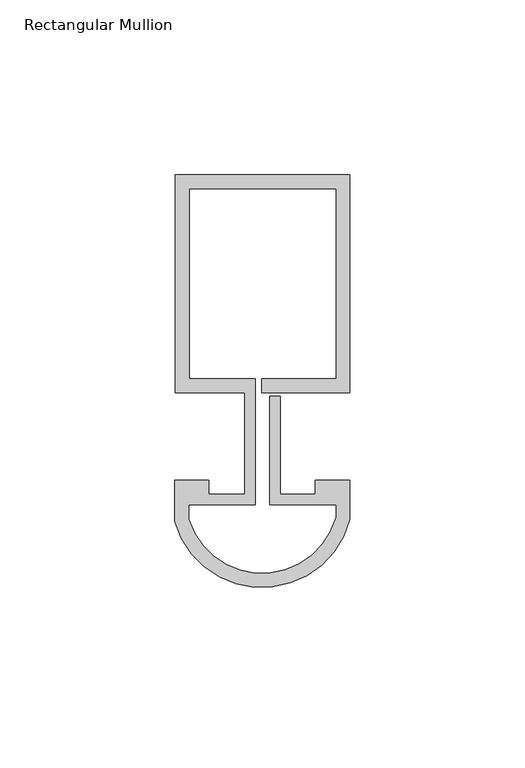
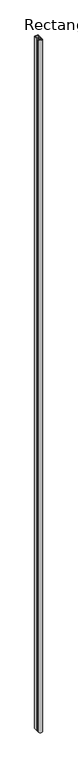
"""IFC4 building model written with IfcOpenShell, lengths in millimetres: member geometry, Rectangular Mullion : Reynaers_CW-50_Mullion-Transom_Vertical_62.5mm_Facecap-07."""

import ifcopenshell
import ifcopenshell.guid

model = None  # the IFC model being written
_history = None  # IfcOwnerHistory: only IFC2X3 demands one
_inside = {}  # id of a spatial element -> (the spatial element, [elements in it])
_under = {}  # id of a project, library or spatial element -> (it, [spatial elements below it])
_declared = {}  # id of a project -> (the project, [libraries it declares])
_typed = {}  # id of a type object -> (the type object, [elements of that type])
_made_of = {}  # id of a material, layer set ... -> (it, [elements and type objects made of it])


def new_model(schema):
    """Start an empty IFC model of exactly this schema.

    Asked for "IFC4X3", IfcOpenShell would pick the latest addendum, in which some entities
    have other attributes; the version numbers below select the first issue.
    IFC2X3 requires an IfcOwnerHistory on every rooted entity: one is made here for all.
    """
    global model, _history
    if schema == "IFC4X3":
        model = ifcopenshell.file(schema_version=(4, 3, 0, 0))
    else:
        model = ifcopenshell.file(schema=schema)
    _inside.clear()
    _under.clear()
    _declared.clear()
    _typed.clear()
    _made_of.clear()
    _history = None
    if model.schema == "IFC2X3":
        org = make("IfcOrganization", Name="unknown")
        user = make(
            "IfcPersonAndOrganization",
            ThePerson=make("IfcPerson", FamilyName="unknown"),
            TheOrganization=org,
        )
        app = make(
            "IfcApplication",
            ApplicationDeveloper=org,
            Version="unknown",
            ApplicationFullName="unknown",
            ApplicationIdentifier="unknown",
        )
        _history = make(
            "IfcOwnerHistory",
            OwningUser=user,
            OwningApplication=app,
            ChangeAction="ADDED",
            CreationDate=0,
        )
    return model


def make(cls, **values):
    """One entity of the class cls with the attributes given. An attribute that is None is left unset."""
    return model.create_entity(
        cls, **{name: value for name, value in values.items() if value is not None}
    )


def rooted(cls, **values):
    """An entity with a GlobalId (a new one), such as an element, a storey or a relation."""
    return make(cls, GlobalId=ifcopenshell.guid.new(), OwnerHistory=_history, **values)


def si_unit(unit_type, name, prefix=None):
    """IfcSIUnit, for example si_unit("LENGTHUNIT", "METRE", prefix="MILLI")."""
    return make("IfcSIUnit", UnitType=unit_type, Prefix=prefix, Name=name)


def assignment(units):
    """IfcUnitAssignment: the units of a project."""
    return None if units is None else make("IfcUnitAssignment", Units=units)


def point(xyz):
    """IfcCartesianPoint."""
    return None if xyz is None else make("IfcCartesianPoint", Coordinates=xyz)


def direction(xyz):
    """IfcDirection."""
    return None if xyz is None else make("IfcDirection", DirectionRatios=xyz)


def frame(location, z_axis=None, x_axis=None):
    """IfcAxis2Placement3D, a coordinate frame: its origin and axes. An axis left out is left unset."""
    return make(
        "IfcAxis2Placement3D",
        Location=point(location),
        Axis=direction(z_axis),
        RefDirection=direction(x_axis),
    )


def frame_2d(location, x_axis=None):
    """IfcAxis2Placement2D, a coordinate frame in the plane: its origin and x axis."""
    return make(
        "IfcAxis2Placement2D", Location=point(location), RefDirection=direction(x_axis)
    )


def origin():
    """The frame at (0, 0, 0) with its axes left unset."""
    return frame((0.0, 0.0, 0.0))


def place(relative_to, where):
    """IfcLocalPlacement: puts the frame where relative to a parent placement (None: the world)."""
    return make(
        "IfcLocalPlacement", PlacementRelTo=relative_to, RelativePlacement=where
    )


def context(
    kind, dimensions, precision=None, world=None, true_north=None, identifier=None
):
    """IfcGeometricRepresentationContext, for example the 3D "Model" context."""
    return make(
        "IfcGeometricRepresentationContext",
        ContextIdentifier=identifier,
        ContextType=kind,
        CoordinateSpaceDimension=dimensions,
        Precision=precision,
        WorldCoordinateSystem=world,
        TrueNorth=true_north,
    )


def project(units=None, contexts=None):
    """IfcProject with its units and contexts."""
    return rooted(
        "IfcProject",
        Name="project",
        RepresentationContexts=contexts,
        UnitsInContext=assignment(units),
    )


def spatial(cls, under=None, at=None, **own):
    """A site, building, storey or space (cls), placed at a placement, below another one or the project."""
    s = rooted(cls, ObjectPlacement=at, **own)
    if under is not None:
        _under.setdefault(under.id(), (under, []))[1].append(s)
    return s


def polyline(points):
    """IfcPolyline through the points."""
    return make("IfcPolyline", Points=[point(p) for p in points])


def circle_curve(where, radius):
    """IfcCircle in the frame where."""
    return make("IfcCircle", Position=where, Radius=radius)


def trimmed(basis, trim1, trim2, sense, master):
    """IfcTrimmedCurve: the piece of a basis curve between two trims."""
    return make(
        "IfcTrimmedCurve",
        BasisCurve=basis,
        Trim1=trim1,
        Trim2=trim2,
        SenseAgreement=sense,
        MasterRepresentation=master,
    )


def segment(curve, same_sense, transition):
    """IfcCompositeCurveSegment."""
    return make(
        "IfcCompositeCurveSegment",
        Transition=transition,
        SameSense=same_sense,
        ParentCurve=curve,
    )


def composite_curve(segments, self_intersect=None):
    """IfcCompositeCurve: segments joined end to end."""
    return make("IfcCompositeCurve", Segments=segments, SelfIntersect=self_intersect)


def outline(outer, holes=None, kind="AREA"):
    """IfcArbitraryClosedProfileDef: a profile drawn as a closed curve; with holes, ...WithVoids."""
    if holes is None:
        return make("IfcArbitraryClosedProfileDef", ProfileType=kind, OuterCurve=outer)
    return make(
        "IfcArbitraryProfileDefWithVoids",
        ProfileType=kind,
        OuterCurve=outer,
        InnerCurves=holes,
    )


def extrude(swept, where, along, depth):
    """IfcExtrudedAreaSolid: the profile swept, set in the frame where, extruded along a direction by depth."""
    return make(
        "IfcExtrudedAreaSolid",
        SweptArea=swept,
        Position=where,
        ExtrudedDirection=direction(along),
        Depth=depth,
    )


def shape(context_of_items, identifier, shape_type, items):
    """IfcShapeRepresentation: the items that make up one representation, for example the "Body"."""
    return make(
        "IfcShapeRepresentation",
        ContextOfItems=context_of_items,
        RepresentationIdentifier=identifier,
        RepresentationType=shape_type,
        Items=items,
    )


def source(mapping_origin, context_of_items, identifier, shape_type, items):
    """IfcRepresentationMap: a shape defined once, which mapped items show again and again."""
    return make(
        "IfcRepresentationMap",
        MappingOrigin=mapping_origin,
        MappedRepresentation=shape(context_of_items, identifier, shape_type, items),
    )


def transform(
    local_origin,
    x_axis=None,
    y_axis=None,
    z_axis=None,
    scale=None,
    scale2=None,
    scale3=None,
    uniform=True,
):
    """IfcCartesianTransformationOperator3D, or its non-uniform kind. x_axis, y_axis, z_axis: its Axis1, 2, 3."""
    if uniform:
        return make(
            "IfcCartesianTransformationOperator3D",
            Axis1=direction(x_axis),
            Axis2=direction(y_axis),
            LocalOrigin=point(local_origin),
            Scale=scale,
            Axis3=direction(z_axis),
        )
    return make(
        "IfcCartesianTransformationOperator3DnonUniform",
        Axis1=direction(x_axis),
        Axis2=direction(y_axis),
        LocalOrigin=point(local_origin),
        Scale=scale,
        Axis3=direction(z_axis),
        Scale2=scale2,
        Scale3=scale3,
    )


def mapped(mapping_source, mapping_target):
    """IfcMappedItem: shows the shape of a source again, moved by a transform."""
    return make(
        "IfcMappedItem", MappingSource=mapping_source, MappingTarget=mapping_target
    )


def made_of(thing, what):
    """Note that an element or type object is made of a material, layer set ...; save() writes the relation."""
    if what is not None:
        _made_of.setdefault(what.id(), (what, []))[1].append(thing)
    return thing


def element(
    cls,
    number,
    at=None,
    inside=None,
    cuts=None,
    type_object=None,
    material=None,
    context=None,
    identifier="Body",
    shape_type=None,
    held_by="IfcProductDefinitionShape",
    body=None,
    shapes=None,
    **own,
):
    """One element of the class cls, such as IfcWall. Its Tag is "e" and its number.

    at: its placement. inside: the storey or other place that contains it. cuts: it is an
    opening in that element (IfcRelVoidsElement). A single representation is given by context,
    identifier, shape_type and body (its items); several are given by shapes. held_by: the class
    of the entity that holds the representations. save() writes the other relations.
    """
    e = rooted(cls, Tag="e%d" % number, ObjectPlacement=at, **own)
    if body is not None:
        shapes = [shape(context, identifier, shape_type, body)]
    if shapes is not None:
        e.Representation = make(held_by, Representations=shapes)
    if inside is not None:
        _inside.setdefault(inside.id(), (inside, []))[1].append(e)
    if cuts is not None:
        rooted(
            "IfcRelVoidsElement", RelatingBuildingElement=cuts, RelatedOpeningElement=e
        )
    if type_object is not None:
        _typed.setdefault(type_object.id(), (type_object, []))[1].append(e)
    return made_of(e, material)


def aggregate(whole, parts):
    """IfcRelAggregates: a whole, such as a stair, and the parts it consists of."""
    return rooted("IfcRelAggregates", RelatingObject=whole, RelatedObjects=parts)


def save(model, path):
    """Write the relations noted so far, then the file.

    IfcRelAggregates (storeys below a building ...), IfcRelContainedInSpatialStructure (elements
    in a storey), IfcRelDefinesByType, IfcRelAssociatesMaterial and IfcRelDeclares: one each for
    every whole, place, type object, material and project.
    """
    for whole, parts in _under.values():
        aggregate(whole, parts)
    for where, things in _inside.values():
        rooted(
            "IfcRelContainedInSpatialStructure",
            RelatedElements=things,
            RelatingStructure=where,
        )
    for kind, things in _typed.values():
        rooted("IfcRelDefinesByType", RelatedObjects=things, RelatingType=kind)
    for what, things in _made_of.values():
        rooted("IfcRelAssociatesMaterial", RelatedObjects=things, RelatingMaterial=what)
    for by, libraries in _declared.values():
        rooted("IfcRelDeclares", RelatingContext=by, RelatedDefinitions=libraries)
    model.write(path)


def rectangular_mullion_2d79f6ae(model_context):
    return source(origin(), model_context, "Body", "SweptSolid", [
        extrude(outline(composite_curve([segment(polyline([(-24.8004059, 75.0), (25.1995941, 75.0), (25.1995941, 12.5), (0.0, 12.5), (0.0, 16.5), (21.1995941, 16.5), (21.1995941, 71.0), (-20.8004059, 71.0), (-20.8004059, 16.5), (-1.9004059, 16.5), (-1.9004059, -19.5), (-20.994845, -19.5), (-20.994845, -23.684232)]), True, "CONTINUOUS"), segment(trimmed(circle_curve(frame_2d((0.0217873, -17.1383151)), 22.0124479), [point((-20.994845, -23.684232))], [point((21.1995941, -23.1423436))], True, "CARTESIAN"), True, "CONTINUOUS"), segment(polyline([(21.1995941, -23.1423436), (21.1995941, -19.5), (2.2995941, -19.5), (2.2995941, 11.5), (5.2995941, 11.5), (5.2995941, -16.5), (15.2996495, -16.5), (15.2996495, -12.5), (25.1995941, -12.5), (25.1995941, -23.6747887)]), True, "CONTINUOUS"), segment(trimmed(circle_curve(frame_2d((0.0217873, -17.1383151)), 26.0124479), [point((25.1995941, -23.6747887))], [point((-24.994845, -24.2668179))], False, "CARTESIAN"), True, "CONTINUOUS"), segment(polyline([(-24.994845, -24.2668179), (-24.994845, -12.5), (-15.2996495, -12.5), (-15.2996495, -16.5), (-4.9004059, -16.5), (-4.9004059, 12.5), (-24.8004059, 12.5), (-24.8004059, 75.0)]), True, "CONTINUOUS")], self_intersect=False)), frame((0.0, 0.0, -10400.0), z_axis=(0.0, 0.0, 1.0), x_axis=(1.0, 0.0, 0.0)), (0.0, 0.0, 1.0), 10400.0),
    ])


if __name__ == "__main__":
    model = new_model("IFC4")
    model_context = context("Model", 3, world=origin())
    ifc_project = project(units=[si_unit("LENGTHUNIT", "METRE", prefix="MILLI")], contexts=[model_context])
    site = spatial("IfcSite", under=ifc_project)
    building = spatial("IfcBuilding", under=site)
    placement = place(None, origin())
    rectangular_mullion_shape = rectangular_mullion_2d79f6ae(model_context)
    element("IfcMember", 1, ObjectType="Rectangular Mullion : Reynaers_CW-50_Mullion-Transom_Vertical_62.5mm_Facecap-07", at=placement, inside=building, context=model_context, shape_type="MappedRepresentation", body=[
        mapped(rectangular_mullion_shape, transform((0.0, 0.0, 0.0), x_axis=(1.0, 0.0, 0.0), y_axis=(0.0, 1.0, 0.0), z_axis=(0.0, 0.0, 1.0))),
    ])
    save(model, "model.ifc")
